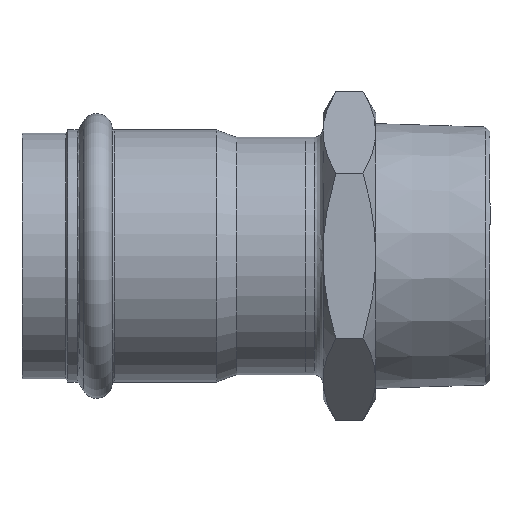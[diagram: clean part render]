
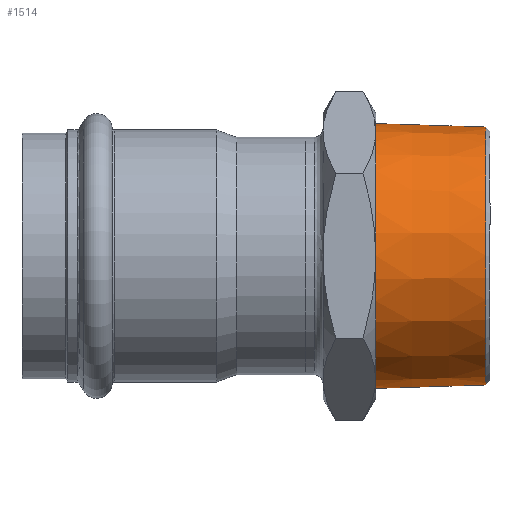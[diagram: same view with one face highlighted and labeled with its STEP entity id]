
A CAD part, top view. The second image highlights one B-rep face of the part: STEP entity #1514.
In plain terms, the highlighted conical face has half-angle 1.79 degrees and reference radius 29.691 mm.
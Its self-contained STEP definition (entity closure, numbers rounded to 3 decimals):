
#1472=CARTESIAN_POINT('',(-29.341,0.0,-1.));
#1473=VERTEX_POINT('',#1472);
#1474=CARTESIAN_POINT('',(0.0,0.,-1.));
#1475=DIRECTION('',(0.0,0.0,1.0));
#1476=DIRECTION('',(1.0,0.0,0.0));
#1477=AXIS2_PLACEMENT_3D('',#1474,#1475,#1476);
#1478=CIRCLE('',#1477,29.341);
#1479=EDGE_CURVE('',#1473,#1473,#1478,.T.);
#1495=CARTESIAN_POINT('',(0.0,0.0,-12.191));
#1496=DIRECTION('',(0.0,0.0,-1.0));
#1497=DIRECTION('',(1.0,0.0,0.0));
#1498=AXIS2_PLACEMENT_3D('',#1495,#1496,#1497);
#1499=CONICAL_SURFACE('',#1498,29.691,1.79);
#1500=CARTESIAN_POINT('',(30.123,0.0,-26.));
#1501=VERTEX_POINT('',#1500);
#1502=CARTESIAN_POINT('',(0.0,0.0,-26.));
#1503=DIRECTION('',(0.0,0.0,-1.0));
#1504=DIRECTION('',(1.0,0.0,0.0));
#1505=AXIS2_PLACEMENT_3D('',#1502,#1503,#1504);
#1506=CIRCLE('',#1505,30.123);
#1507=EDGE_CURVE('',#1501,#1501,#1506,.T.);
#1508=ORIENTED_EDGE('',*,*,#1507,.F.);
#1509=EDGE_LOOP('',(#1508));
#1510=FACE_OUTER_BOUND('',#1509,.T.);
#1511=ORIENTED_EDGE('',*,*,#1479,.F.);
#1512=EDGE_LOOP('',(#1511));
#1513=FACE_BOUND('',#1512,.T.);
#1514=ADVANCED_FACE('',(#1510,#1513),#1499,.T.);
